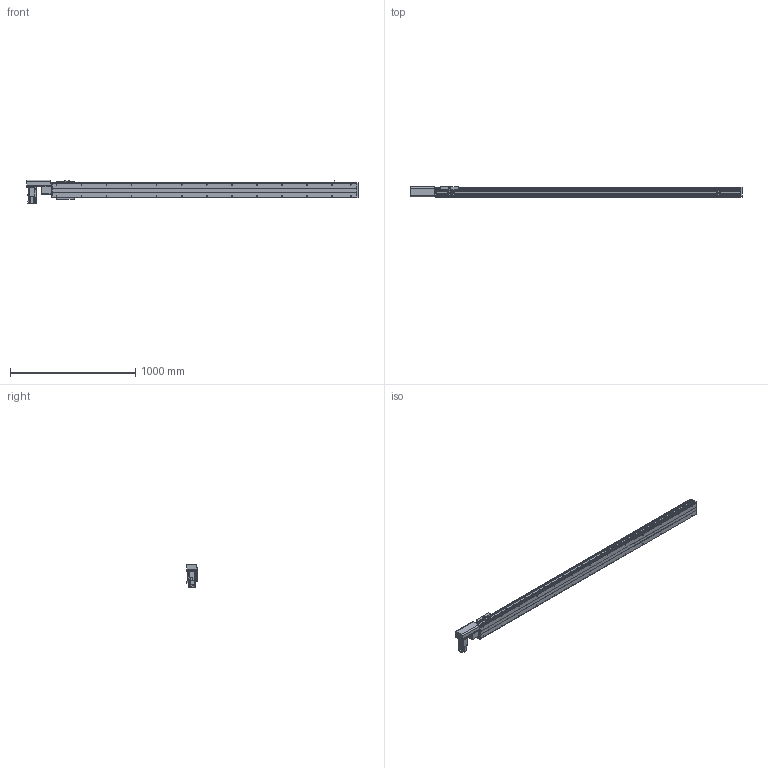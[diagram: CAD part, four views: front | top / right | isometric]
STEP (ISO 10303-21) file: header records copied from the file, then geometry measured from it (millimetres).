
FILE_DESCRIPTION( ( 'STEP AP214' ), '1' );
FILE_NAME( 'x:/temp/worker_27/temp/exporttempdir_6708_24_P31CZ/format_0/PBS120-P40-S2150-R-T40-C1-N(0).stp', '2022-06-06T00:09:33', ( 'License CC BY-ND 4.0' ), ( 'CADENAS' ), ' ', 'PARTsolutions', ' ' );
FILE_SCHEMA( ( 'AUTOMOTIVE_DESIGN { 1 0 10303 214 1 1 1 1 }' ) );
Length unit declared in the file: millimetre
Products named in the file (7): PBS120-P40-S2150-R-T40-C1-N(0); _PBS120-S2150()_body; _PBS120T-R_motors; _T40-p1; _PBS120_sliser; _PBS120_plant; _PBS120_sensor
Assembly tree (8 placements, depth 2):
  PBS120-P40-S2150-R-T40-C1-N(0)
    _PBS120-S2150()_body
    _PBS120T-R_motors
    _T40-p1
    _PBS120_sliser
    _PBS120_plant
    _PBS120_sensor  x3
Bounding box: 2651 x 83 x 189.7 mm (x, y, z)
Volume: 9704490.4 mm3; surface area: 1989625.8 mm2
Topology: 8 solids, 8 shells, 858 faces, 2206 edges, 1417 vertices
Faces by surface type: plane 559, cylinder 239, cone 58, torus 2
Full cylindrical faces by diameter (mm): 2.459 x6, 3.242 x4, 4 x2, 4.134 x4, 4.5 x10, 4.917 x30, 5.5 x11, 6 x2, 6.6 x1, 7 x2, 8.5 x4, 9 x4, 12 x1, 14 x1, 30 x2, 40 x1, 50 x2
Entity records: 28164 total; most frequent: DIRECTION 3860, CARTESIAN_POINT 3767, ORIENTED_EDGE 3562, EDGE_CURVE 1781, AXIS2_PLACEMENT_3D 1316, LINE 1228, VECTOR 1228, VERTEX_POINT 1223
